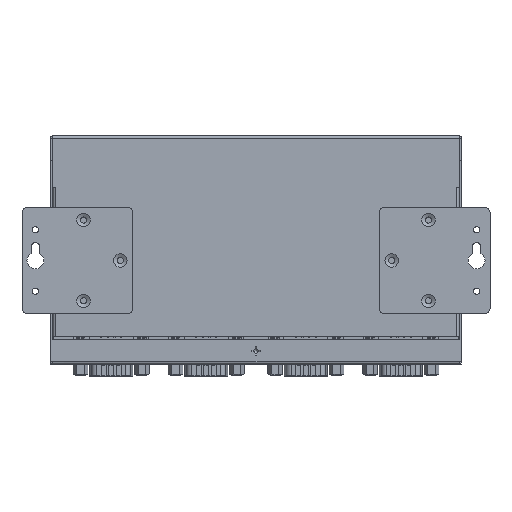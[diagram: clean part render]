
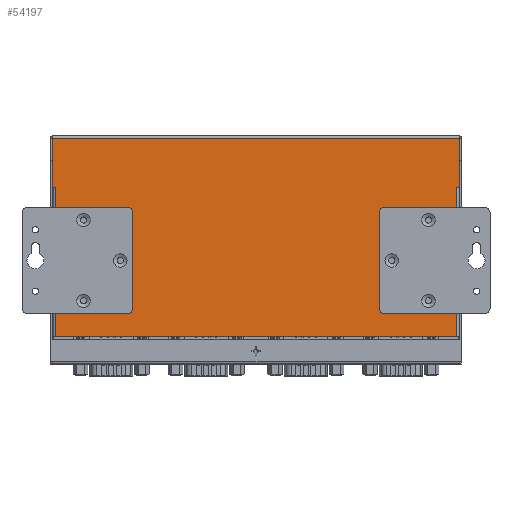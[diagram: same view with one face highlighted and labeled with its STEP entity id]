
A CAD part, front view. The second image highlights one B-rep face of the part: STEP entity #54197.
In plain terms, the highlighted planar face has unit normal (0, -1, 0).
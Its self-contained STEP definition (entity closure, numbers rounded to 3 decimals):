
#1168=FACE_BOUND('',#7706,.T.);
#1169=FACE_BOUND('',#7707,.T.);
#1170=FACE_BOUND('',#7708,.T.);
#1171=FACE_BOUND('',#7709,.T.);
#1172=FACE_BOUND('',#7710,.T.);
#1173=FACE_BOUND('',#7711,.T.);
#1692=PLANE('',#57635);
#4772=FACE_OUTER_BOUND('',#7705,.T.);
#7705=EDGE_LOOP('',(#41094,#41095,#41096,#41097,#41098,#41099,#41100,#41101));
#7706=EDGE_LOOP('',(#41102));
#7707=EDGE_LOOP('',(#41103));
#7708=EDGE_LOOP('',(#41104));
#7709=EDGE_LOOP('',(#41105));
#7710=EDGE_LOOP('',(#41106));
#7711=EDGE_LOOP('',(#41107));
#11256=LINE('',#99181,#17413);
#11299=LINE('',#99326,#17456);
#11330=LINE('',#99393,#17487);
#11336=LINE('',#99406,#17493);
#11343=LINE('',#99427,#17500);
#11346=LINE('',#99433,#17503);
#11350=LINE('',#99442,#17507);
#11357=LINE('',#99456,#17514);
#17413=VECTOR('',#63948,10.);
#17456=VECTOR('',#64055,10.);
#17487=VECTOR('',#64114,10.);
#17493=VECTOR('',#64124,10.);
#17500=VECTOR('',#64147,10.);
#17503=VECTOR('',#64154,10.);
#17507=VECTOR('',#64166,10.);
#17514=VECTOR('',#64181,10.);
#22521=CIRCLE('',#57572,1.265);
#22523=CIRCLE('',#57575,1.265);
#22525=CIRCLE('',#57578,1.265);
#22527=CIRCLE('',#57581,1.265);
#22529=CIRCLE('',#57584,1.265);
#22531=CIRCLE('',#57587,1.265);
#24922=VERTEX_POINT('',#99178);
#24923=VERTEX_POINT('',#99180);
#24948=VERTEX_POINT('',#99237);
#24950=VERTEX_POINT('',#99243);
#24952=VERTEX_POINT('',#99249);
#24954=VERTEX_POINT('',#99255);
#24956=VERTEX_POINT('',#99261);
#24958=VERTEX_POINT('',#99267);
#24964=VERTEX_POINT('',#99305);
#24971=VERTEX_POINT('',#99322);
#24992=VERTEX_POINT('',#99390);
#24993=VERTEX_POINT('',#99392);
#24998=VERTEX_POINT('',#99405);
#25005=VERTEX_POINT('',#99430);
#30963=EDGE_CURVE('',#24922,#24923,#11256,.T.);
#30992=EDGE_CURVE('',#24948,#24948,#22521,.T.);
#30995=EDGE_CURVE('',#24950,#24950,#22523,.T.);
#30998=EDGE_CURVE('',#24952,#24952,#22525,.T.);
#31001=EDGE_CURVE('',#24954,#24954,#22527,.T.);
#31004=EDGE_CURVE('',#24956,#24956,#22529,.T.);
#31007=EDGE_CURVE('',#24958,#24958,#22531,.T.);
#31026=EDGE_CURVE('',#24971,#24964,#11299,.T.);
#31060=EDGE_CURVE('',#24992,#24993,#11330,.T.);
#31067=EDGE_CURVE('',#24993,#24998,#11336,.T.);
#31078=EDGE_CURVE('',#24992,#24971,#11343,.T.);
#31082=EDGE_CURVE('',#25005,#24923,#11346,.T.);
#31087=EDGE_CURVE('',#24964,#25005,#11350,.T.);
#31094=EDGE_CURVE('',#24922,#24998,#11357,.T.);
#41094=ORIENTED_EDGE('',*,*,#31026,.T.);
#41095=ORIENTED_EDGE('',*,*,#31087,.T.);
#41096=ORIENTED_EDGE('',*,*,#31082,.T.);
#41097=ORIENTED_EDGE('',*,*,#30963,.F.);
#41098=ORIENTED_EDGE('',*,*,#31094,.T.);
#41099=ORIENTED_EDGE('',*,*,#31067,.F.);
#41100=ORIENTED_EDGE('',*,*,#31060,.F.);
#41101=ORIENTED_EDGE('',*,*,#31078,.T.);
#41102=ORIENTED_EDGE('',*,*,#30992,.T.);
#41103=ORIENTED_EDGE('',*,*,#30995,.T.);
#41104=ORIENTED_EDGE('',*,*,#30998,.T.);
#41105=ORIENTED_EDGE('',*,*,#31001,.T.);
#41106=ORIENTED_EDGE('',*,*,#31004,.T.);
#41107=ORIENTED_EDGE('',*,*,#31007,.T.);
#54197=ADVANCED_FACE('',(#4772,#1168,#1169,#1170,#1171,#1172,#1173),#1692,
 .T.);
#57572=AXIS2_PLACEMENT_3D('',#99238,#63984,#63985);
#57575=AXIS2_PLACEMENT_3D('',#99244,#63991,#63992);
#57578=AXIS2_PLACEMENT_3D('',#99250,#63998,#63999);
#57581=AXIS2_PLACEMENT_3D('',#99256,#64005,#64006);
#57584=AXIS2_PLACEMENT_3D('',#99262,#64012,#64013);
#57587=AXIS2_PLACEMENT_3D('',#99268,#64019,#64020);
#57635=AXIS2_PLACEMENT_3D('',#99458,#64184,#64185);
#63948=DIRECTION('',(0.,0.,-1.));
#63984=DIRECTION('center_axis',(0.,1.,0.));
#63985=DIRECTION('ref_axis',(0.,0.,-1.));
#63991=DIRECTION('center_axis',(0.,1.,0.));
#63992=DIRECTION('ref_axis',(0.,0.,-1.));
#63998=DIRECTION('center_axis',(0.,1.,0.));
#63999=DIRECTION('ref_axis',(0.,0.,-1.));
#64005=DIRECTION('center_axis',(0.,1.,0.));
#64006=DIRECTION('ref_axis',(0.,0.,-1.));
#64012=DIRECTION('center_axis',(0.,1.,0.));
#64013=DIRECTION('ref_axis',(0.,0.,-1.));
#64019=DIRECTION('center_axis',(0.,1.,0.));
#64020=DIRECTION('ref_axis',(0.,0.,-1.));
#64055=DIRECTION('',(1.,0.,0.));
#64114=DIRECTION('',(-1.,0.,0.));
#64124=DIRECTION('',(0.,0.,1.));
#64147=DIRECTION('',(0.,0.,-1.));
#64154=DIRECTION('',(1.,0.,0.));
#64166=DIRECTION('',(0.,0.,1.));
#64181=DIRECTION('',(-1.,0.,0.));
#64184=DIRECTION('center_axis',(0.,-1.,0.));
#64185=DIRECTION('ref_axis',(1.,0.,0.));
#99178=CARTESIAN_POINT('',(82.9,-9.8,-1.01));
#99180=CARTESIAN_POINT('',(82.9,-9.8,-21.01));
#99181=CARTESIAN_POINT('',(82.9,-9.8,-23.505));
#99237=CARTESIAN_POINT('',(70.4,-9.8,-66.191));
#99238=CARTESIAN_POINT('Origin',(70.4,-9.8,-67.455));
#99243=CARTESIAN_POINT('',(-55.4,-9.8,-49.691));
#99244=CARTESIAN_POINT('Origin',(-55.4,-9.8,-50.955));
#99249=CARTESIAN_POINT('',(-70.4,-9.8,-33.191));
#99250=CARTESIAN_POINT('Origin',(-70.4,-9.8,-34.455));
#99255=CARTESIAN_POINT('',(-70.4,-9.8,-66.191));
#99256=CARTESIAN_POINT('Origin',(-70.4,-9.8,-67.455));
#99261=CARTESIAN_POINT('',(70.4,-9.8,-33.191));
#99262=CARTESIAN_POINT('Origin',(70.4,-9.8,-34.455));
#99267=CARTESIAN_POINT('',(55.4,-9.8,-49.691));
#99268=CARTESIAN_POINT('Origin',(55.4,-9.8,-50.955));
#99305=CARTESIAN_POINT('',(81.89,-9.8,-82.));
#99322=CARTESIAN_POINT('',(-81.89,-9.8,-82.));
#99326=CARTESIAN_POINT('',(41.45,-9.8,-82.));
#99390=CARTESIAN_POINT('',(-81.89,-9.8,-21.01));
#99392=CARTESIAN_POINT('',(-82.9,-9.8,-21.01));
#99393=CARTESIAN_POINT('',(-81.89,-9.8,-21.01));
#99405=CARTESIAN_POINT('',(-82.9,-9.8,-1.01));
#99406=CARTESIAN_POINT('',(-82.9,-9.8,-69.));
#99427=CARTESIAN_POINT('',(-81.89,-9.8,-69.));
#99430=CARTESIAN_POINT('',(81.89,-9.8,-21.01));
#99433=CARTESIAN_POINT('',(81.89,-9.8,-21.01));
#99442=CARTESIAN_POINT('',(81.89,-9.8,-23.505));
#99456=CARTESIAN_POINT('',(-41.45,-9.8,-1.01));
#99458=CARTESIAN_POINT('Origin',(0.,-9.8,
-46.));
